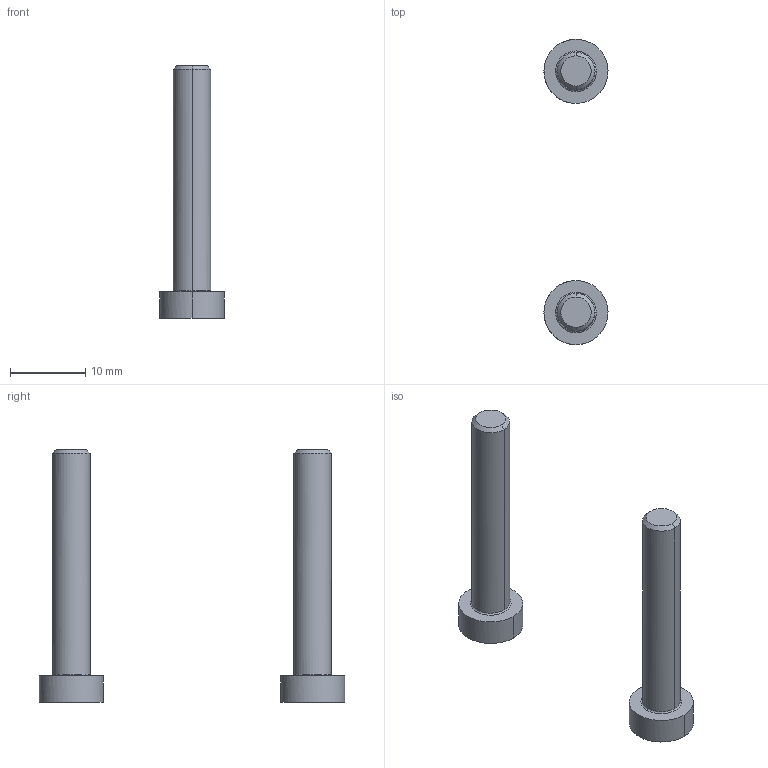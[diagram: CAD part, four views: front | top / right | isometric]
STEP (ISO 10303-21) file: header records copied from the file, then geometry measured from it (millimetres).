
FILE_DESCRIPTION(/* description */ (''),/* implementation_level */ '2;1');
FILE_NAME(/* name */ 'X-D2D6~1',/* time_stamp */ '2014-02-14T19:45:41+01:00',/* author */ (''),/* organization */ (''),/* preprocessor_version */ 'ST-DEVELOPER v14',/* originating_system */ '',/* authorisation */ '');
FILE_SCHEMA (('AUTOMOTIVE_DESIGN'));
Length unit declared in the file: millimetre
Products named in the file (1): Document
Bounding box: 8.5 x 40.5 x 33.5 mm (x, y, z)
Volume: 1532.1 mm3; surface area: 1402.3 mm2
Topology: 2 solids, 2 shells, 50 faces, 118 edges, 72 vertices
Faces by surface type: plane 30, bspline 20
Entity records: 3081 total; most frequent: CARTESIAN_POINT 1547, B_SPLINE_CURVE_WITH_KNOTS 258, ORIENTED_EDGE 228, PCURVE 228, DEFINITIONAL_REPRESENTATION 228, SURFACE_CURVE 114, EDGE_CURVE 114, VERTEX_POINT 72
